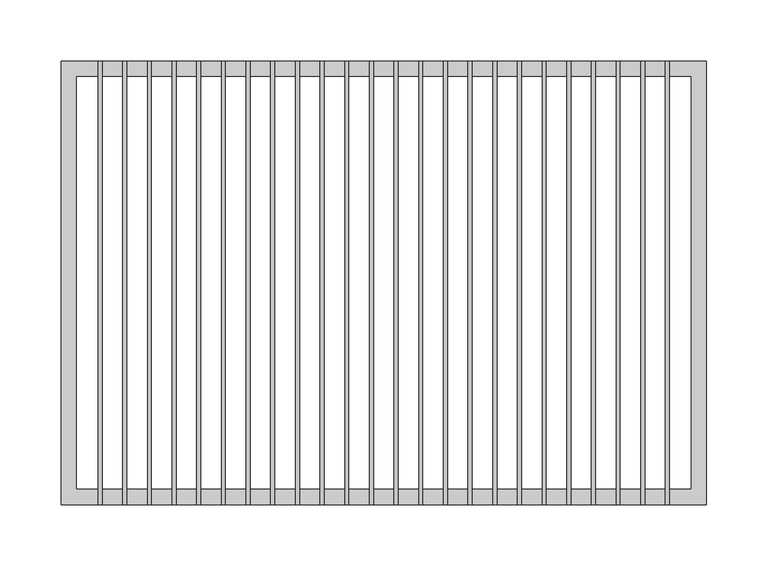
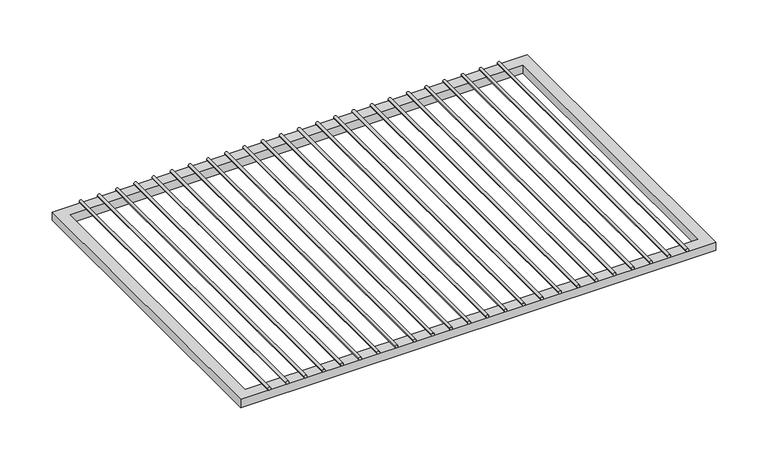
"""IFC4 building model written with IfcOpenShell, lengths in millimetres: furniture geometry, HermanMiller_CoStruc_CO252_CWireShelf : 14D x 20W."""

from ifc_helpers import new_model, si_unit, point, frame, frame_2d, origin, place, context, project, spatial, polyline, circle_curve, trimmed, segment, composite_curve, outline, extrude, source, transform, mapped, element, save


def furniture_955c4189(model_context):
    return source(origin(), model_context, "Body", "SweptSolid", [
        extrude(outline(composite_curve([segment(trimmed(circle_curve(frame_2d((1008.0625, -211.6206522)), 1.5875), [point((1008.0625, -213.2081522))], [point((1008.0625, -210.0331522))], False, "CARTESIAN"), True, "CONTINUOUS"), segment(trimmed(circle_curve(frame_2d((1008.0625, -211.6206522)), 1.5875), [point((1008.0625, -210.0331522))], [point((1008.0625, -213.2081522))], False, "CARTESIAN"), True, "CONTINUOUS")], self_intersect=False)), frame((0.0, -180.975, 0.0), z_axis=(0.0, 1.0, 0.0), x_axis=(0.0, 0.0, 1.0)), (0.0, 0.0, 1.0), 361.95),
        extrude(outline(composite_curve([segment(trimmed(circle_curve(frame_2d((1008.0625, -191.4663043)), 1.5875), [point((1008.0625, -193.0538043))], [point((1008.0625, -189.8788043))], False, "CARTESIAN"), True, "CONTINUOUS"), segment(trimmed(circle_curve(frame_2d((1008.0625, -191.4663043)), 1.5875), [point((1008.0625, -189.8788043))], [point((1008.0625, -193.0538043))], False, "CARTESIAN"), True, "CONTINUOUS")], self_intersect=False)), frame((0.0, -180.975, 0.0), z_axis=(0.0, 1.0, 0.0), x_axis=(0.0, 0.0, 1.0)), (0.0, 0.0, 1.0), 361.95),
        extrude(outline(composite_curve([segment(trimmed(circle_curve(frame_2d((1008.0625, -171.3119565)), 1.5875), [point((1008.0625, -172.8994565))], [point((1008.0625, -169.7244565))], False, "CARTESIAN"), True, "CONTINUOUS"), segment(trimmed(circle_curve(frame_2d((1008.0625, -171.3119565)), 1.5875), [point((1008.0625, -169.7244565))], [point((1008.0625, -172.8994565))], False, "CARTESIAN"), True, "CONTINUOUS")], self_intersect=False)), frame((0.0, -180.975, 0.0), z_axis=(0.0, 1.0, 0.0), x_axis=(0.0, 0.0, 1.0)), (0.0, 0.0, 1.0), 361.95),
        extrude(outline(composite_curve([segment(trimmed(circle_curve(frame_2d((1008.0625, -151.1576087)), 1.5875), [point((1008.0625, -152.7451087))], [point((1008.0625, -149.5701087))], False, "CARTESIAN"), True, "CONTINUOUS"), segment(trimmed(circle_curve(frame_2d((1008.0625, -151.1576087)), 1.5875), [point((1008.0625, -149.5701087))], [point((1008.0625, -152.7451087))], False, "CARTESIAN"), True, "CONTINUOUS")], self_intersect=False)), frame((0.0, -180.975, 0.0), z_axis=(0.0, 1.0, 0.0), x_axis=(0.0, 0.0, 1.0)), (0.0, 0.0, 1.0), 361.95),
        extrude(outline(composite_curve([segment(trimmed(circle_curve(frame_2d((1008.0625, -131.0032609)), 1.5875), [point((1008.0625, -132.5907609))], [point((1008.0625, -129.4157609))], False, "CARTESIAN"), True, "CONTINUOUS"), segment(trimmed(circle_curve(frame_2d((1008.0625, -131.0032609)), 1.5875), [point((1008.0625, -129.4157609))], [point((1008.0625, -132.5907609))], False, "CARTESIAN"), True, "CONTINUOUS")], self_intersect=False)), frame((0.0, -180.975, 0.0), z_axis=(0.0, 1.0, 0.0), x_axis=(0.0, 0.0, 1.0)), (0.0, 0.0, 1.0), 361.95),
        extrude(outline(composite_curve([segment(trimmed(circle_curve(frame_2d((1008.0625, -110.848913)), 1.5875), [point((1008.0625, -112.436413))], [point((1008.0625, -109.261413))], False, "CARTESIAN"), True, "CONTINUOUS"), segment(trimmed(circle_curve(frame_2d((1008.0625, -110.848913)), 1.5875), [point((1008.0625, -109.261413))], [point((1008.0625, -112.436413))], False, "CARTESIAN"), True, "CONTINUOUS")], self_intersect=False)), frame((0.0, -180.975, 0.0), z_axis=(0.0, 1.0, 0.0), x_axis=(0.0, 0.0, 1.0)), (0.0, 0.0, 1.0), 361.95),
        extrude(outline(composite_curve([segment(trimmed(circle_curve(frame_2d((1008.0625, -90.6945652)), 1.5875), [point((1008.0625, -92.2820652))], [point((1008.0625, -89.1070652))], False, "CARTESIAN"), True, "CONTINUOUS"), segment(trimmed(circle_curve(frame_2d((1008.0625, -90.6945652)), 1.5875), [point((1008.0625, -89.1070652))], [point((1008.0625, -92.2820652))], False, "CARTESIAN"), True, "CONTINUOUS")], self_intersect=False)), frame((0.0, -180.975, 0.0), z_axis=(0.0, 1.0, 0.0), x_axis=(0.0, 0.0, 1.0)), (0.0, 0.0, 1.0), 361.95),
        extrude(outline(composite_curve([segment(trimmed(circle_curve(frame_2d((1008.0625, -70.5402174)), 1.5875), [point((1008.0625, -72.1277174))], [point((1008.0625, -68.9527174))], False, "CARTESIAN"), True, "CONTINUOUS"), segment(trimmed(circle_curve(frame_2d((1008.0625, -70.5402174)), 1.5875), [point((1008.0625, -68.9527174))], [point((1008.0625, -72.1277174))], False, "CARTESIAN"), True, "CONTINUOUS")], self_intersect=False)), frame((0.0, -180.975, 0.0), z_axis=(0.0, 1.0, 0.0), x_axis=(0.0, 0.0, 1.0)), (0.0, 0.0, 1.0), 361.95),
        extrude(outline(composite_curve([segment(trimmed(circle_curve(frame_2d((1008.0625, -50.3858696)), 1.5875), [point((1008.0625, -51.9733696))], [point((1008.0625, -48.7983696))], False, "CARTESIAN"), True, "CONTINUOUS"), segment(trimmed(circle_curve(frame_2d((1008.0625, -50.3858696)), 1.5875), [point((1008.0625, -48.7983696))], [point((1008.0625, -51.9733696))], False, "CARTESIAN"), True, "CONTINUOUS")], self_intersect=False)), frame((0.0, -180.975, 0.0), z_axis=(0.0, 1.0, 0.0), x_axis=(0.0, 0.0, 1.0)), (0.0, 0.0, 1.0), 361.95),
        extrude(outline(composite_curve([segment(trimmed(circle_curve(frame_2d((1008.0625, -30.2315217)), 1.5875), [point((1008.0625, -31.8190217))], [point((1008.0625, -28.6440217))], False, "CARTESIAN"), True, "CONTINUOUS"), segment(trimmed(circle_curve(frame_2d((1008.0625, -30.2315217)), 1.5875), [point((1008.0625, -28.6440217))], [point((1008.0625, -31.8190217))], False, "CARTESIAN"), True, "CONTINUOUS")], self_intersect=False)), frame((0.0, -180.975, 0.0), z_axis=(0.0, 1.0, 0.0), x_axis=(0.0, 0.0, 1.0)), (0.0, 0.0, 1.0), 361.95),
        extrude(outline(composite_curve([segment(trimmed(circle_curve(frame_2d((1008.0625, -10.0771739)), 1.5875), [point((1008.0625, -11.6646739))], [point((1008.0625, -8.4896739))], False, "CARTESIAN"), True, "CONTINUOUS"), segment(trimmed(circle_curve(frame_2d((1008.0625, -10.0771739)), 1.5875), [point((1008.0625, -8.4896739))], [point((1008.0625, -11.6646739))], False, "CARTESIAN"), True, "CONTINUOUS")], self_intersect=False)), frame((0.0, -180.975, 0.0), z_axis=(0.0, 1.0, 0.0), x_axis=(0.0, 0.0, 1.0)), (0.0, 0.0, 1.0), 361.95),
        extrude(outline(composite_curve([segment(trimmed(circle_curve(frame_2d((1008.0625, 10.0771739)), 1.5875), [point((1008.0625, 8.4896739))], [point((1008.0625, 11.6646739))], False, "CARTESIAN"), True, "CONTINUOUS"), segment(trimmed(circle_curve(frame_2d((1008.0625, 10.0771739)), 1.5875), [point((1008.0625, 11.6646739))], [point((1008.0625, 8.4896739))], False, "CARTESIAN"), True, "CONTINUOUS")], self_intersect=False)), frame((0.0, -180.975, 0.0), z_axis=(0.0, 1.0, 0.0), x_axis=(0.0, 0.0, 1.0)), (0.0, 0.0, 1.0), 361.95),
        extrude(outline(composite_curve([segment(trimmed(circle_curve(frame_2d((1008.0625, 30.2315217)), 1.5875), [point((1008.0625, 28.6440217))], [point((1008.0625, 31.8190217))], False, "CARTESIAN"), True, "CONTINUOUS"), segment(trimmed(circle_curve(frame_2d((1008.0625, 30.2315217)), 1.5875), [point((1008.0625, 31.8190217))], [point((1008.0625, 28.6440217))], False, "CARTESIAN"), True, "CONTINUOUS")], self_intersect=False)), frame((0.0, -180.975, 0.0), z_axis=(0.0, 1.0, 0.0), x_axis=(0.0, 0.0, 1.0)), (0.0, 0.0, 1.0), 361.95),
        extrude(outline(composite_curve([segment(trimmed(circle_curve(frame_2d((1008.0625, 50.3858696)), 1.5875), [point((1008.0625, 48.7983696))], [point((1008.0625, 51.9733696))], False, "CARTESIAN"), True, "CONTINUOUS"), segment(trimmed(circle_curve(frame_2d((1008.0625, 50.3858696)), 1.5875), [point((1008.0625, 51.9733696))], [point((1008.0625, 48.7983696))], False, "CARTESIAN"), True, "CONTINUOUS")], self_intersect=False)), frame((0.0, -180.975, 0.0), z_axis=(0.0, 1.0, 0.0), x_axis=(0.0, 0.0, 1.0)), (0.0, 0.0, 1.0), 361.95),
        extrude(outline(composite_curve([segment(trimmed(circle_curve(frame_2d((1008.0625, 70.5402174)), 1.5875), [point((1008.0625, 68.9527174))], [point((1008.0625, 72.1277174))], False, "CARTESIAN"), True, "CONTINUOUS"), segment(trimmed(circle_curve(frame_2d((1008.0625, 70.5402174)), 1.5875), [point((1008.0625, 72.1277174))], [point((1008.0625, 68.9527174))], False, "CARTESIAN"), True, "CONTINUOUS")], self_intersect=False)), frame((0.0, -180.975, 0.0), z_axis=(0.0, 1.0, 0.0), x_axis=(0.0, 0.0, 1.0)), (0.0, 0.0, 1.0), 361.95),
        extrude(outline(composite_curve([segment(trimmed(circle_curve(frame_2d((1008.0625, 90.6945652)), 1.5875), [point((1008.0625, 89.1070652))], [point((1008.0625, 92.2820652))], False, "CARTESIAN"), True, "CONTINUOUS"), segment(trimmed(circle_curve(frame_2d((1008.0625, 90.6945652)), 1.5875), [point((1008.0625, 92.2820652))], [point((1008.0625, 89.1070652))], False, "CARTESIAN"), True, "CONTINUOUS")], self_intersect=False)), frame((0.0, -180.975, 0.0), z_axis=(0.0, 1.0, 0.0), x_axis=(0.0, 0.0, 1.0)), (0.0, 0.0, 1.0), 361.95),
        extrude(outline(composite_curve([segment(trimmed(circle_curve(frame_2d((1008.0625, 110.848913)), 1.5875), [point((1008.0625, 109.261413))], [point((1008.0625, 112.436413))], False, "CARTESIAN"), True, "CONTINUOUS"), segment(trimmed(circle_curve(frame_2d((1008.0625, 110.848913)), 1.5875), [point((1008.0625, 112.436413))], [point((1008.0625, 109.261413))], False, "CARTESIAN"), True, "CONTINUOUS")], self_intersect=False)), frame((0.0, -180.975, 0.0), z_axis=(0.0, 1.0, 0.0), x_axis=(0.0, 0.0, 1.0)), (0.0, 0.0, 1.0), 361.95),
        extrude(outline(composite_curve([segment(trimmed(circle_curve(frame_2d((1008.0625, 131.0032609)), 1.5875), [point((1008.0625, 129.4157609))], [point((1008.0625, 132.5907609))], False, "CARTESIAN"), True, "CONTINUOUS"), segment(trimmed(circle_curve(frame_2d((1008.0625, 131.0032609)), 1.5875), [point((1008.0625, 132.5907609))], [point((1008.0625, 129.4157609))], False, "CARTESIAN"), True, "CONTINUOUS")], self_intersect=False)), frame((0.0, -180.975, 0.0), z_axis=(0.0, 1.0, 0.0), x_axis=(0.0, 0.0, 1.0)), (0.0, 0.0, 1.0), 361.95),
        extrude(outline(composite_curve([segment(trimmed(circle_curve(frame_2d((1008.0625, 151.1576087)), 1.5875), [point((1008.0625, 149.5701087))], [point((1008.0625, 152.7451087))], False, "CARTESIAN"), True, "CONTINUOUS"), segment(trimmed(circle_curve(frame_2d((1008.0625, 151.1576087)), 1.5875), [point((1008.0625, 152.7451087))], [point((1008.0625, 149.5701087))], False, "CARTESIAN"), True, "CONTINUOUS")], self_intersect=False)), frame((0.0, -180.975, 0.0), z_axis=(0.0, 1.0, 0.0), x_axis=(0.0, 0.0, 1.0)), (0.0, 0.0, 1.0), 361.95),
        extrude(outline(composite_curve([segment(trimmed(circle_curve(frame_2d((1008.0625, 171.3119565)), 1.5875), [point((1008.0625, 169.7244565))], [point((1008.0625, 172.8994565))], False, "CARTESIAN"), True, "CONTINUOUS"), segment(trimmed(circle_curve(frame_2d((1008.0625, 171.3119565)), 1.5875), [point((1008.0625, 172.8994565))], [point((1008.0625, 169.7244565))], False, "CARTESIAN"), True, "CONTINUOUS")], self_intersect=False)), frame((0.0, -180.975, 0.0), z_axis=(0.0, 1.0, 0.0), x_axis=(0.0, 0.0, 1.0)), (0.0, 0.0, 1.0), 361.95),
        extrude(outline(composite_curve([segment(trimmed(circle_curve(frame_2d((1008.0625, 191.4663043)), 1.5875), [point((1008.0625, 189.8788043))], [point((1008.0625, 193.0538043))], False, "CARTESIAN"), True, "CONTINUOUS"), segment(trimmed(circle_curve(frame_2d((1008.0625, 191.4663043)), 1.5875), [point((1008.0625, 193.0538043))], [point((1008.0625, 189.8788043))], False, "CARTESIAN"), True, "CONTINUOUS")], self_intersect=False)), frame((0.0, -180.975, 0.0), z_axis=(0.0, 1.0, 0.0), x_axis=(0.0, 0.0, 1.0)), (0.0, 0.0, 1.0), 361.95),
        extrude(outline(composite_curve([segment(trimmed(circle_curve(frame_2d((1008.0625, 211.6206522)), 1.5875), [point((1008.0625, 210.0331522))], [point((1008.0625, 213.2081522))], False, "CARTESIAN"), True, "CONTINUOUS"), segment(trimmed(circle_curve(frame_2d((1008.0625, 211.6206522)), 1.5875), [point((1008.0625, 213.2081522))], [point((1008.0625, 210.0331522))], False, "CARTESIAN"), True, "CONTINUOUS")], self_intersect=False)), frame((0.0, -180.975, 0.0), z_axis=(0.0, 1.0, 0.0), x_axis=(0.0, 0.0, 1.0)), (0.0, 0.0, 1.0), 361.95),
        extrude(outline(composite_curve([segment(trimmed(circle_curve(frame_2d((1008.0625, -231.775)), 1.5875), [point((1008.0625, -233.3625))], [point((1008.0625, -230.1875))], False, "CARTESIAN"), True, "CONTINUOUS"), segment(trimmed(circle_curve(frame_2d((1008.0625, -231.775)), 1.5875), [point((1008.0625, -230.1875))], [point((1008.0625, -233.3625))], False, "CARTESIAN"), True, "CONTINUOUS")], self_intersect=False)), frame((0.0, -180.975, 0.0), z_axis=(0.0, 1.0, 0.0), x_axis=(0.0, 0.0, 1.0)), (0.0, 0.0, 1.0), 361.95),
        extrude(outline(composite_curve([segment(trimmed(circle_curve(frame_2d((1008.0625, 231.775)), 1.5875), [point((1008.0625, 230.1875))], [point((1008.0625, 233.3625))], False, "CARTESIAN"), True, "CONTINUOUS"), segment(trimmed(circle_curve(frame_2d((1008.0625, 231.775)), 1.5875), [point((1008.0625, 233.3625))], [point((1008.0625, 230.1875))], False, "CARTESIAN"), True, "CONTINUOUS")], self_intersect=False)), frame((0.0, -180.975, 0.0), z_axis=(0.0, 1.0, 0.0), x_axis=(0.0, 0.0, 1.0)), (0.0, 0.0, 1.0), 361.95),
        extrude(outline(polyline([(-263.525, -180.975), (-263.525, 180.975), (263.525, 180.975), (263.525, -180.975), (-263.525, -180.975)]), holes=[polyline([(-250.825, -168.275), (250.825, -168.275), (250.825, 168.275), (-250.825, 168.275), (-250.825, -168.275)])]), frame((0.0, 0.0, 996.95), z_axis=(0.0, 0.0, 1.0), x_axis=(1.0, 0.0, 0.0)), (0.0, 0.0, 1.0), 9.525),
    ])


if __name__ == "__main__":
    model = new_model("IFC4")
    model_context = context("Model", 3, world=origin())
    ifc_project = project(units=[si_unit("LENGTHUNIT", "METRE", prefix="MILLI")], contexts=[model_context])
    site = spatial("IfcSite", under=ifc_project)
    building = spatial("IfcBuilding", under=site)
    placement = place(None, origin())
    furniture_shape = furniture_955c4189(model_context)
    element("IfcFurniture", 1, ObjectType="HermanMiller_CoStruc_CO252_CWireShelf : 14D x 20W", at=placement, inside=building, context=model_context, shape_type="MappedRepresentation", body=[
        mapped(furniture_shape, transform((0.0, 0.0, 0.0), x_axis=(1.0, 0.0, 0.0), y_axis=(0.0, 1.0, 0.0), z_axis=(0.0, 0.0, 1.0))),
    ])
    save(model, "model.ifc")
